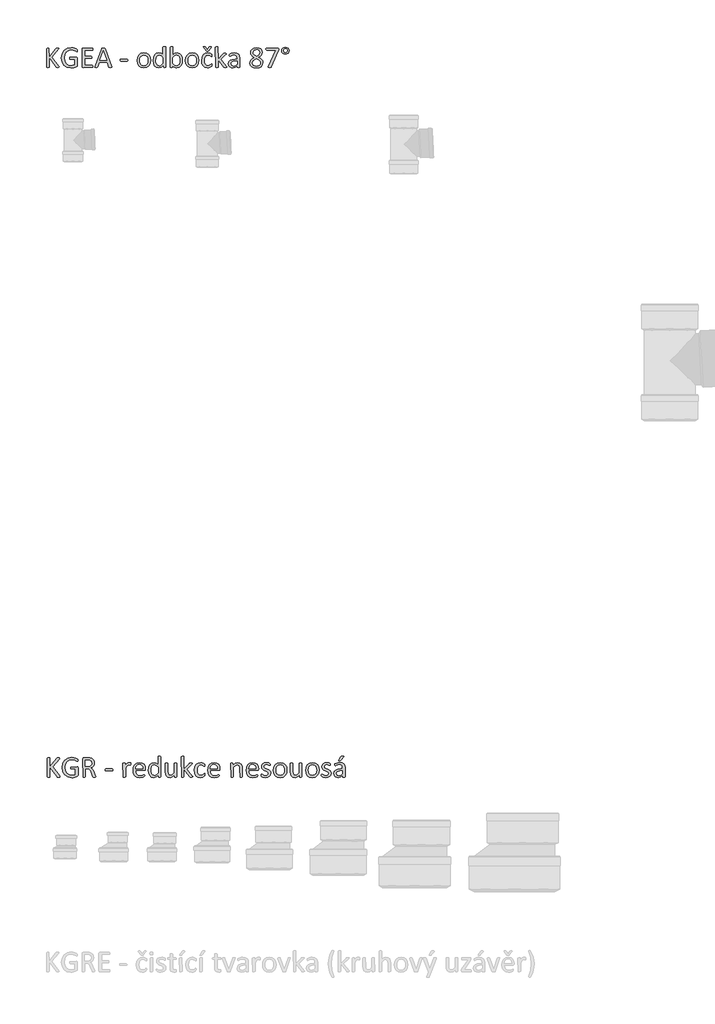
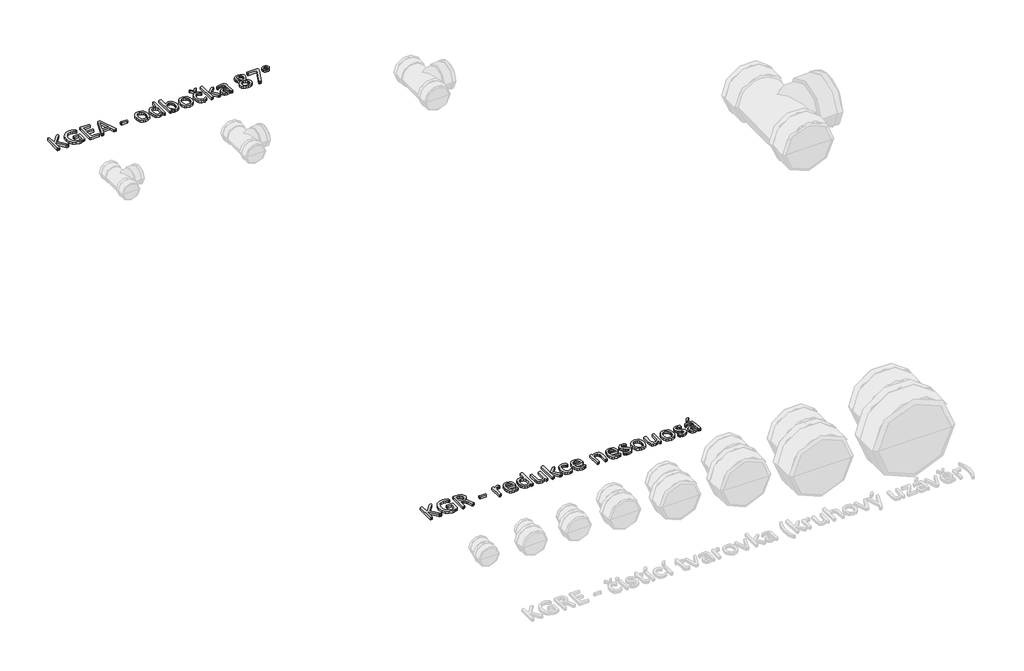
# One storey, part 8 of 11: 2 proxies.
"""IFC4 building model written with IfcOpenShell, lengths in millimetres."""

from ifc_helpers import new_model, si_unit, origin, origin_with_axes, place, context, project, spatial, polyline, outline, extrude, element, save

model = new_model("IFC4")

# Units and contexts
model_context = context("Model", 3, world=origin())
ifc_project = project(units=[si_unit("LENGTHUNIT", "METRE", prefix="MILLI")], contexts=[model_context])

# Site, building, storey
site = spatial("IfcSite", under=ifc_project)
building = spatial("IfcBuilding", under=site)
storey = spatial("IfcBuildingStorey", under=building, Name="Podlaží 1", Elevation=0.0)

# Proxies
placement = place(None, origin())
element("IfcBuildingElementProxy", 1, Name="120mm Arial", ObjectType="120mm Arial", at=placement, inside=storey, context=model_context, shape_type="SweptSolid", body=[
    extrude(outline(polyline([(-20472.3940185, 13408.9373299), (-20473.8234835, 13405.9155494), (-20476.3386182, 13405.3184311), (-20480.4098794, 13405.0832026), (-20485.6934717, 13405.35462), (-20488.7514412, 13406.3679117), (-20490.4342292, 13408.0506997), (-20534.5486061, 13467.6901526), (-20534.5486061, 13408.0506997), (-20536.2494886, 13405.8793604), (-20538.7465288, 13405.3184311), (-20542.6549395, 13405.0832026), (-20546.5271613, 13405.3184311), (-20549.0603905, 13405.8793604), (-20550.3812885, 13406.8021796), (-20550.3812885, 13522.5526591), (-20546.5271613, 13525.2849277), (-20542.6549395, 13525.5201562), (-20538.7465288, 13525.2849277), (-20536.2494886, 13524.7239984), (-20534.5486061, 13469.535791), (-20492.0989227, 13522.5526591), (-20490.7780246, 13523.9459352), (-20488.9866697, 13524.8325654), (-20486.399157, 13525.3392112), (-20482.4364628, 13525.5201562), (-20478.564241, 13525.2849277), (-20476.1938622, 13524.6878094), (-20475.2529486, 13520.1641859), (-20477.5509493, 13516.8347989), (-20517.3226476, 13469.535791), (-20474.4748853, 13412.9362131), (-20472.3940185, 13408.9373299)])), origin_with_axes(), (0.0, 0.0, 1.0), 15.0),
    extrude(outline(polyline([(-20360.8414616, 13509.7417572), (-20361.0224065, 13506.4666537), (-20361.5833359, 13504.096275), (-20362.5242496, 13502.7572824), (-20367.4278575, 13504.168653), (-20374.4123323, 13508.1494417), (-20384.8709499, 13512.1302304), (-20399.3103563, 13513.9396799), (-20417.1696221, 13510.2664975), (-20430.5595478, 13500.0973918), (-20438.9734876, 13484.6627882), (-20441.9047957, 13465.2654904), (-20438.7020702, 13444.5292), (-20429.8176736, 13429.2755414), (-20416.2648974, 13419.8664044), (-20399.0208444, 13416.6636789), (-20387.693691, 13417.984577), (-20377.0541284, 13421.9110823), (-20377.0541284, 13456.0372984), (-20404.0873028, 13456.0372984), (-20406.403398, 13457.7200863), (-20407.1633668, 13462.9493951), (-20406.9824219, 13466.1340261), (-20406.3853036, 13468.3053654), (-20366.4145658, 13469.9338699), (-20364.406077, 13469.57198), (-20362.578533, 13468.4682159), (-20361.293824, 13466.423538), (-20360.8414616, 13463.456041), (-20360.8414616, 13417.8579156), (-20361.6738083, 13413.6780874), (-20365.2022347, 13410.5839289), (-20372.1505205, 13407.6707153), (-20380.9444447, 13404.9927302), (-20390.1183533, 13403.3280367), (-20399.2741673, 13402.7671074), (-20424.1179079, 13407.145975), (-20442.610481, 13419.6130815), (-20454.1366738, 13438.9741903), (-20458.1174625, 13464.1798208), (-20453.8290674, 13490.4168374), (-20441.7238508, 13510.4474425), (-20422.9598603, 13523.2764389), (-20398.7313325, 13527.8362514), (-20385.8842416, 13526.6601093), (-20375.20849, 13523.9097462), (-20367.3554795, 13520.4717923), (-20362.9766119, 13517.4319172), (-20361.3119185, 13514.5729872), (-20360.8414616, 13509.7417572)])), origin_with_axes(), (0.0, 0.0, 1.0), 15.0),
    extrude(outline(polyline([(-20263.5654607, 13411.9952994), (-20263.7464056, 13408.9192354), (-20264.3978074, 13406.7298016), (-20265.4834771, 13405.463187), (-20324.7610401, 13405.0832026), (-20328.8142068, 13406.5307622), (-20330.7322232, 13411.5972206), (-20330.7322232, 13519.0061382), (-20328.7961123, 13524.0725966), (-20324.6886622, 13525.5201562), (-20266.7862807, 13525.5201562), (-20264.4159019, 13523.8735572), (-20263.8006891, 13521.6841234), (-20263.5654607, 13518.4271144), (-20263.8006891, 13515.3691449), (-20264.4159019, 13513.2159001), (-20314.5195564, 13511.6235846), (-20314.5195564, 13474.5660604), (-20273.6983774, 13474.5660604), (-20271.3099042, 13472.865178), (-20270.6946914, 13470.6757442), (-20270.5137465, 13467.3644517), (-20270.6946914, 13464.2702932), (-20271.3099042, 13462.1713319), (-20314.5195564, 13460.6694889), (-20314.5195564, 13418.9797742), (-20266.8224696, 13418.9797742), (-20264.3978074, 13417.3874587), (-20263.7464056, 13415.2342139), (-20263.5654607, 13411.9952994)])), origin_with_axes(), (0.0, 0.0, 1.0), 15.0),
    extrude(outline(polyline([(-20148.4844775, 13411.3438976), (-20147.7064142, 13408.0506997), (-20148.394005, 13406.1145888), (-20150.8548562, 13405.2641476), (-20155.4327632, 13405.0832026), (-20160.0468593, 13405.2279586), (-20162.6343719, 13405.6984154), (-20164.7333333, 13407.9783217), (-20175.011006, 13437.5085363), (-20224.915621, 13437.5085363), (-20234.7228369, 13408.3764006), (-20235.4828057, 13406.928841), (-20236.8217982, 13405.8793604), (-20239.3188384, 13405.2641476), (-20243.5529501, 13405.0832026), (-20247.9499122, 13405.3184311), (-20250.3564799, 13406.2050613), (-20251.0078817, 13408.1230777), (-20250.211724, 13411.4162756), (-20209.9695688, 13522.2269582), (-20209.0105606, 13523.8735572), (-20207.2373002, 13524.8687544), (-20204.2698031, 13525.3754002), (-20199.6918961, 13525.5201562), (-20194.7701937, 13525.3754002), (-20191.6036572, 13524.8687544), (-20189.7580188, 13523.8373682), (-20188.7266326, 13522.1545802), (-20148.4844775, 13411.3438976)]), holes=[polyline([(-20200.126164, 13509.3074893), (-20220.8986433, 13449.0890126), (-20179.1727396, 13449.0890126), (-20200.126164, 13509.3074893)])]), origin_with_axes(), (0.0, 0.0, 1.0), 15.0),
    extrude(outline(polyline([(-20048.1686015, 13450.2832492), (-20049.0190427, 13445.7234367), (-20051.4979884, 13444.4568221), (-20091.0887418, 13444.4568221), (-20093.6400655, 13445.7596256), (-20094.4905067, 13450.2832492), (-20093.6400655, 13454.7706838), (-20091.0887418, 13456.0372984), (-20051.4979884, 13456.0372984), (-20048.4038299, 13452.9974233), (-20048.1686015, 13450.2832492)])), origin_with_axes(), (0.0, 0.0, 1.0), 15.0),
    extrude(outline(polyline([(-19906.8867906, 13449.9937373), (-19909.5647758, 13431.0126129), (-19917.5806367, 13416.0665606), (-19930.9343735, 13406.2774393), (-19949.517419, 13402.7671074), (-19967.4309683, 13405.8612659), (-19980.1694922, 13414.8542295), (-19987.7691798, 13429.1850689), (-19990.26622, 13448.2928548), (-19987.6244238, 13467.2739793), (-19979.6628464, 13482.201937), (-19966.3633931, 13491.9367749), (-19947.7441586, 13495.4109178), (-19929.8125148, 13492.3167593), (-19917.0739909, 13483.3237956), (-19909.4381143, 13468.9929562), (-19906.8867906, 13449.9937373)]), holes=[polyline([(-19923.0994575, 13448.9080676), (-19924.3479776, 13461.4837411), (-19928.4554278, 13471.8699808), (-19936.1817768, 13478.9268335), (-19948.3593714, 13481.5143462), (-19959.9217532, 13479.1439675), (-19967.8833307, 13472.4490046), (-19972.5336157, 13462.2075209), (-19974.0535532, 13449.2699575), (-19972.8050331, 13436.6219061), (-19968.6613939, 13426.2718554), (-19960.8807614, 13419.2511916), (-19948.7212613, 13416.6636789), (-19937.1950685, 13419.0340577), (-19929.1792075, 13425.6747371), (-19924.5651115, 13435.8800318), (-19923.0994575, 13448.9080676)])]), origin_with_axes(), (0.0, 0.0, 1.0), 15.0),
    extrude(outline(polyline([(-19814.5686811, 13407.9783217), (-19817.9523516, 13405.2641476), (-19821.263644, 13405.0832026), (-19824.7015979, 13405.2641476), (-19826.9453152, 13405.7346044), (-19828.6100087, 13418.0388605), (-19842.0542179, 13406.8021796), (-19857.3078765, 13402.7671074), (-19872.7243856, 13406.3679117), (-19883.0563418, 13416.1027496), (-19888.8465799, 13430.542156), (-19890.6741238, 13448.0033429), (-19888.3942176, 13467.6358691), (-19881.6630657, 13482.5819214), (-19870.6254242, 13492.0815308), (-19855.3898601, 13495.4109178), (-19842.2351628, 13492.1720033), (-19830.4556471, 13482.6723938), (-19830.4556471, 13531.7808512), (-19828.7909536, 13533.9883794), (-19826.2939134, 13534.5493088), (-19822.4578806, 13534.7845372), (-19818.4409029, 13534.5493088), (-19815.9981462, 13533.9883794), (-19814.6772481, 13533.0655602), (-19814.5686811, 13407.9783217)]), holes=[polyline([(-19830.4556471, 13466.1702151), (-19842.0723124, 13477.587841), (-19853.7613556, 13481.5143462), (-19863.3514376, 13478.7639831), (-19869.7568885, 13471.5080909), (-19873.3395984, 13461.3027962), (-19874.461457, 13449.7404144), (-19873.5205433, 13437.5085363), (-19870.2454398, 13426.9051627), (-19864.0571228, 13419.4683255), (-19854.3765684, 13416.6636789), (-19848.6948972, 13417.4779312), (-19843.085604, 13420.1740108), (-19837.0963264, 13425.0595243), (-19830.4556471, 13432.4782669), (-19830.4556471, 13466.1702151)])]), origin_with_axes(), (0.0, 0.0, 1.0), 15.0),
    extrude(outline(polyline([(-19710.0186935, 13450.1746822), (-19712.3347888, 13430.4516835), (-19719.1564131, 13415.5056313), (-19730.2302436, 13406.0422108), (-19745.2667683, 13402.7671074), (-19752.504566, 13403.5632651), (-19759.0185839, 13406.1507778), (-19765.3878459, 13410.6563069), (-19772.1189977, 13417.2065138), (-19772.1189977, 13407.7611878), (-19776.009314, 13405.2641476), (-19779.3929844, 13405.0832026), (-19782.7223713, 13405.2641476), (-19784.9841831, 13405.7707934), (-19786.4498371, 13531.8170401), (-19782.3242924, 13534.6035923), (-19778.3796927, 13534.7845372), (-19774.362715, 13534.6035923), (-19771.9199583, 13534.0426629), (-19770.6352492, 13533.1017492), (-19770.2371703, 13481.5505352), (-19763.1984121, 13488.0102696), (-19756.5215437, 13492.2805703), (-19749.9894313, 13494.6690435), (-19743.095429, 13495.4109178), (-19727.8779593, 13491.7558299), (-19717.6002866, 13481.9667086), (-19711.828143, 13467.5815857), (-19710.0186935, 13450.1746822)]), holes=[polyline([(-19726.2313604, 13448.4014218), (-19727.1722741, 13460.7237724), (-19730.465472, 13471.3090515), (-19736.6718835, 13478.7096996), (-19746.3162489, 13481.5143462), (-19751.9617311, 13480.700094), (-19757.6253078, 13477.9859198), (-19763.6145854, 13473.1185009), (-19770.2371703, 13465.6273803), (-19770.2371703, 13432.00781), (-19758.548127, 13420.5901842), (-19746.9314617, 13416.6636789), (-19737.3956633, 13419.4321366), (-19730.9540234, 13426.7423122), (-19727.353219, 13436.947607), (-19726.2313604, 13448.4014218)])]), origin_with_axes(), (0.0, 0.0, 1.0), 15.0),
    extrude(outline(polyline([(-19608.1105021, 13449.9937373), (-19610.7884872, 13431.0126129), (-19618.8043482, 13416.0665606), (-19632.1580849, 13406.2774393), (-19650.7411305, 13402.7671074), (-19668.6546798, 13405.8612659), (-19681.3932037, 13414.8542295), (-19688.9928913, 13429.1850689), (-19691.4899315, 13448.2928548), (-19688.8481353, 13467.2739793), (-19680.8865578, 13482.201937), (-19667.5871046, 13491.9367749), (-19648.96787, 13495.4109178), (-19631.0362263, 13492.3167593), (-19618.2977023, 13483.3237956), (-19610.6618258, 13468.9929562), (-19608.1105021, 13449.9937373)]), holes=[polyline([(-19624.3231689, 13448.9080676), (-19625.571689, 13461.4837411), (-19629.6791392, 13471.8699808), (-19637.4054882, 13478.9268335), (-19649.5830829, 13481.5143462), (-19661.1454647, 13479.1439675), (-19669.1070421, 13472.4490046), (-19673.7573271, 13462.2075209), (-19675.2772646, 13449.2699575), (-19674.0287445, 13436.6219061), (-19669.8851054, 13426.2718554), (-19662.1044729, 13419.2511916), (-19649.9449727, 13416.6636789), (-19638.4187799, 13419.0340577), (-19630.402919, 13425.6747371), (-19625.788823, 13435.8800318), (-19624.3231689, 13448.9080676)])]), origin_with_axes(), (0.0, 0.0, 1.0), 15.0),
    extrude(outline(polyline([(-19527.047168, 13421.7301373), (-19527.1376405, 13419.1969081), (-19527.4633414, 13417.3874587), (-19529.4537357, 13413.7504654), (-19533.344052, 13410.222039), (-19539.5142745, 13406.4764787), (-19546.9511116, 13403.7984935), (-19555.274579, 13402.7671074), (-19570.9806, 13405.7707934), (-19582.4344148, 13414.5466231), (-19589.4731731, 13428.6965176), (-19591.8978353, 13448.0395319), (-19588.9303382, 13469.4815076), (-19580.8059103, 13484.1561424), (-19568.6645047, 13492.6424602), (-19553.5375075, 13495.4109178), (-19545.901631, 13494.5966655), (-19539.0981012, 13492.4615152), (-19533.5611859, 13489.4216402), (-19530.050854, 13486.4722376), (-19528.549011, 13484.5361267), (-19527.8614202, 13482.9980947), (-19527.4995304, 13481.0981728), (-19527.4090579, 13478.4382822), (-19528.2233101, 13473.6251467), (-19530.19561, 13472.2499652), (-19533.3259575, 13473.6975247), (-19537.7952976, 13476.8821557), (-19544.363599, 13480.0667867), (-19553.4289406, 13481.5143462), (-19562.9511682, 13479.4153849), (-19569.9492138, 13473.1185009), (-19574.2511798, 13462.8227337), (-19575.6851685, 13448.7271227), (-19574.2014199, 13434.7219842), (-19569.8225523, 13424.6614454), (-19562.7114161, 13418.6359788), (-19553.0670507, 13416.6636789), (-19544.0378981, 13418.4912229), (-19537.3067462, 13422.5082006), (-19532.5117053, 13426.4708948), (-19529.4718302, 13428.2441552), (-19527.1738295, 13424.6795399), (-19527.047168, 13421.7301373)])), origin_with_axes(), (0.0, 0.0, 1.0), 15.0),
    extrude(outline(polyline([(-19544.4178825, 13532.1065521), (-19543.2598348, 13533.3912611), (-19539.9666369, 13534.6578757), (-19537.0715178, 13534.7845372), (-19533.2897685, 13534.4769308), (-19531.4803191, 13533.5903006), (-19532.8374062, 13529.7904568), (-19547.7834584, 13509.3074893), (-19548.9596005, 13508.1494417), (-19550.551916, 13507.4799454), (-19552.8680113, 13507.1180555), (-19556.2154927, 13506.9913941), (-19559.3639347, 13507.1180555), (-19561.5895575, 13507.5161344), (-19563.1275895, 13508.2399142), (-19579.1593114, 13529.7904568), (-19580.5525874, 13532.0160796), (-19578.6526655, 13534.4769308), (-19574.8890107, 13534.7845372), (-19571.7767577, 13534.6578757), (-19569.8949303, 13534.2055134), (-19567.5788351, 13532.1065521), (-19555.9983588, 13515.9300742), (-19544.4178825, 13532.1065521)])), origin_with_axes(), (0.0, 0.0, 1.0), 15.0),
    extrude(outline(polyline([(-19436.7194529, 13408.0145107), (-19440.7907141, 13405.2641476), (-19444.7895973, 13405.0832026), (-19448.915142, 13405.2279586), (-19451.6655051, 13405.6803209), (-19453.4749545, 13406.5850457), (-19454.7415691, 13408.0145107), (-19489.9896438, 13453.5764471), (-19489.9896438, 13407.9059437), (-19494.1151885, 13405.2641476), (-19498.1321662, 13405.0832026), (-19502.076766, 13405.2641476), (-19504.5738062, 13405.8250769), (-19506.2023107, 13531.8170401), (-19502.076766, 13534.6035923), (-19498.1321662, 13534.7845372), (-19494.1151885, 13534.6035923), (-19491.6724318, 13534.0426629), (-19490.3877227, 13533.1017492), (-19489.9896438, 13455.6754085), (-19457.7814441, 13489.9101915), (-19456.1710341, 13491.4120346), (-19454.1444508, 13492.4072317), (-19451.3578987, 13492.9500666), (-19447.4675824, 13493.0948225), (-19443.4867937, 13492.9500666), (-19440.899281, 13492.4977042), (-19439.469816, 13491.683452), (-19439.6688554, 13488.1550256), (-19441.7859112, 13485.6037019), (-19473.776977, 13455.7839754), (-19438.9993591, 13412.3210003), (-19437.2441932, 13409.8058656), (-19436.7194529, 13408.0145107)])), origin_with_axes(), (0.0, 0.0, 1.0), 15.0),
    extrude(outline(polyline([(-19355.6561188, 13407.8697547), (-19356.4522765, 13406.1869668), (-19358.6236158, 13405.35462), (-19362.6767825, 13405.0832026), (-19366.7842327, 13405.35462), (-19369.0098555, 13406.1869668), (-19369.6974463, 13407.8697547), (-19369.6974463, 13416.1932221), (-19381.8931354, 13406.5669512), (-19396.1515968, 13402.7671074), (-19408.1120575, 13404.4860843), (-19417.2135881, 13409.4620702), (-19423.0581097, 13417.4598367), (-19425.1389766, 13428.2441552), (-19422.261952, 13440.5122223), (-19414.0108626, 13449.1613906), (-19400.8561653, 13454.3183214), (-19383.3406949, 13456.0372984), (-19371.8687856, 13456.0372984), (-19371.8687856, 13462.9493951), (-19372.8820773, 13471.9966423), (-19376.1390862, 13478.5468492), (-19381.9474189, 13482.4914489), (-19390.7232486, 13483.8304415), (-19400.7656928, 13482.3828819), (-19408.5463254, 13479.198251), (-19414.1375241, 13476.01362), (-19417.466911, 13474.5660604), (-19420.3258411, 13478.0944868), (-19420.506786, 13480.7543775), (-19420.1810851, 13484.5542212), (-19418.5887697, 13487.2141119), (-19414.246091, 13489.928286), (-19407.1530493, 13492.6062712), (-19398.3772196, 13494.61476), (-19388.7690432, 13495.4109178), (-19373.3887231, 13493.3662399), (-19363.1291449, 13487.3950568), (-19357.4293792, 13477.6421245), (-19355.6561188, 13464.0350648), (-19355.6561188, 13407.8697547)]), holes=[polyline([(-19371.8687856, 13444.4568221), (-19384.7520655, 13444.4568221), (-19395.500195, 13443.3892469), (-19403.0817881, 13440.2408049), (-19407.5149392, 13435.2467245), (-19408.9263097, 13428.5336671), (-19404.873143, 13418.1836164), (-19393.5098007, 13414.3475837), (-19382.5083482, 13417.4055532), (-19371.8687856, 13426.7604067), (-19371.8687856, 13444.4568221)])]), origin_with_axes(), (0.0, 0.0, 1.0), 15.0),
    extrude(outline(polyline([(-19212.0582126, 13435.7352758), (-19214.8447647, 13421.6939483), (-19222.8787202, 13411.3077086), (-19235.8524725, 13404.9203522), (-19253.5307934, 13402.7671074), (-19270.1596336, 13404.7394072), (-19282.6086456, 13410.5658344), (-19290.4254671, 13420.0473494), (-19293.1215467, 13432.9125347), (-19291.2397193, 13443.4254359), (-19285.8475601, 13452.2555491), (-19277.1983918, 13459.8190476), (-19265.5817265, 13466.532105), (-19275.3346589, 13472.6661385), (-19282.5000786, 13479.7048968), (-19286.9694187, 13487.8293247), (-19288.4893562, 13497.2203672), (-19286.2456389, 13509.1989224), (-19279.4421091, 13518.9156658), (-19267.8435383, 13525.4477782), (-19251.4318321, 13527.8362514), (-19235.8524725, 13525.6287231), (-19225.0138705, 13519.621351), (-19218.7169865, 13510.6464819), (-19216.6904032, 13499.5726514), (-19218.2103407, 13490.3806484), (-19222.6615863, 13482.0209921), (-19229.8812894, 13474.6384384), (-19239.6704108, 13468.1967985), (-19227.8728006, 13461.4656466), (-19219.2055379, 13453.9926205), (-19213.8857566, 13445.5424917), (-19212.0582126, 13435.7352758)]), holes=[polyline([(-19232.90307, 13498.6317377), (-19234.2058736, 13505.9600079), (-19238.0057173, 13511.5512066), (-19244.2121289, 13515.0615385), (-19252.6622577, 13516.2557751), (-19267.318798, 13511.5331121), (-19272.2766894, 13498.6317377), (-19271.0643583, 13491.683452), (-19267.3007035, 13485.5675129), (-19260.8590635, 13479.9220307), (-19251.612777, 13474.2041706), (-19237.7342999, 13485.2599065), (-19232.90307, 13498.6317377)]), polyline([(-19228.2708795, 13433.4553696), (-19229.8451005, 13441.453136), (-19234.6220469, 13448.1661934), (-19242.6017189, 13454.2278489), (-19253.7117383, 13460.307599), (-19263.9532221, 13454.3545104), (-19271.1910197, 13448.2023824), (-19275.4613204, 13441.5436085), (-19276.9088799, 13433.8172595), (-19275.3663243, 13425.5706937), (-19270.7386574, 13419.4321366), (-19263.0439737, 13415.6187219), (-19252.3003678, 13414.3475837), (-19241.8779391, 13415.6322928), (-19234.3506295, 13419.48642), (-19229.790817, 13425.5480756), (-19228.2708795, 13433.4553696)])]), origin_with_axes(), (0.0, 0.0, 1.0), 15.0),
    extrude(outline(polyline([(-19114.7822117, 13518.7166263), (-19114.9269677, 13515.7129403), (-19115.3069521, 13513.1254276), (-19115.9583538, 13510.7369544), (-19116.917362, 13508.2941977), (-19160.4165261, 13408.7021015), (-19161.5745738, 13406.8926521), (-19163.3478342, 13405.7888879), (-19166.0981973, 13405.2279586), (-19170.187553, 13405.0832026), (-19175.1454444, 13405.35462), (-19177.7148626, 13406.2412503), (-19178.4205479, 13407.7249988), (-19177.7510516, 13409.8239601), (-19132.0443592, 13511.6235846), (-19189.9829297, 13511.6235846), (-19192.6428203, 13513.469223), (-19193.5294506, 13518.6080594), (-19193.2942221, 13521.6660289), (-19192.5885369, 13523.8192737), (-19191.4666782, 13525.1039828), (-19119.6315362, 13525.5201562), (-19117.3516299, 13525.2487387), (-19115.8497869, 13524.1449746), (-19115.0536291, 13522.0279188), (-19114.7822117, 13518.7166263)])), origin_with_axes(), (0.0, 0.0, 1.0), 15.0),
    extrude(outline(polyline([(-19049.9315444, 13509.6693792), (-19051.6867104, 13501.4001954), (-19056.6265073, 13494.61476), (-19064.1176279, 13490.073042), (-19073.4543869, 13488.462632), (-19082.64639, 13489.9463805), (-19089.8118097, 13494.1262087), (-19094.5525672, 13500.5859431), (-19096.2534496, 13508.9455995), (-19094.4440002, 13517.4500117), (-19089.4680143, 13524.1449746), (-19082.0311772, 13528.5419367), (-19072.7306072, 13530.1523467), (-19063.5928876, 13528.6324092), (-19056.3731844, 13524.452581), (-19051.6324269, 13518.0290355), (-19049.9315444, 13509.6693792)]), holes=[polyline([(-19061.5120207, 13509.3436783), (-19062.3805565, 13513.9396799), (-19064.8052187, 13517.6128622), (-19068.51459, 13520.0194299), (-19073.201064, 13520.8879656), (-19077.7246876, 13520.0194299), (-19081.3797754, 13517.6128622), (-19083.8044376, 13513.9939633), (-19084.6729733, 13509.5246233), (-19083.8044376, 13504.7114878), (-19081.3254919, 13501.0021165), (-19077.5256481, 13498.5955488), (-19072.8029851, 13497.727013), (-19068.369834, 13498.6317377), (-19064.7690297, 13501.1287779), (-19062.3805565, 13504.8019603), (-19061.5120207, 13509.3436783)])]), origin_with_axes(), (0.0, 0.0, 1.0), 15.0),
])
element("IfcBuildingElementProxy", 2, Name="120mm Arial", ObjectType="120mm Arial", at=placement, inside=storey, context=model_context, shape_type="SweptSolid", body=[
    extrude(outline(polyline([(-20467.3940185, 9019.6646138), (-20468.8234835, 9016.6428332), (-20471.3386182, 9016.0457149), (-20475.4098794, 9015.8104865), (-20480.6934717, 9016.0819039), (-20483.7514412, 9017.0951956), (-20485.4342292, 9018.7779836), (-20529.5486061, 9078.4174365), (-20529.5486061, 9018.7779836), (-20531.2494886, 9016.6066442), (-20533.7465288, 9016.0457149), (-20537.6549395, 9015.8104865), (-20541.5271613, 9016.0457149), (-20544.0603905, 9016.6066442), (-20545.3812885, 9017.5294635), (-20545.3812885, 9133.279943), (-20541.5271613, 9136.0122116), (-20537.6549395, 9136.24744), (-20533.7465288, 9136.0122116), (-20531.2494886, 9135.4512823), (-20529.5486061, 9080.2630749), (-20487.0989227, 9133.279943), (-20485.7780246, 9134.673219), (-20483.9866697, 9135.5598492), (-20481.399157, 9136.0664951), (-20477.4364628, 9136.24744), (-20473.564241, 9136.0122116), (-20471.1938622, 9135.4150933), (-20470.2529486, 9130.8914697), (-20472.5509493, 9127.5620828), (-20512.3226476, 9080.2630749), (-20469.4748853, 9023.663497), (-20467.3940185, 9019.6646138)])), origin_with_axes(), (0.0, 0.0, 1.0), 15.0),
    extrude(outline(polyline([(-20355.8414616, 9120.4690411), (-20356.0224065, 9117.1939376), (-20356.5833359, 9114.8235589), (-20357.5242496, 9113.4845663), (-20362.4278575, 9114.8959368), (-20369.4123323, 9118.8767256), (-20379.8709499, 9122.8575143), (-20394.3103563, 9124.6669637), (-20412.1696221, 9120.9937814), (-20425.5595478, 9110.8246756), (-20433.9734876, 9095.3900721), (-20436.9047957, 9075.9927743), (-20433.7020702, 9055.2564839), (-20424.8176736, 9040.0028253), (-20411.2648974, 9030.5936883), (-20394.0208444, 9027.3909628), (-20382.693691, 9028.7118609), (-20372.0541284, 9032.6383661), (-20372.0541284, 9066.7645822), (-20399.0873028, 9066.7645822), (-20401.403398, 9068.4473702), (-20402.1633668, 9073.676679), (-20401.9824219, 9076.86131), (-20401.3853036, 9079.0326493), (-20361.4145658, 9080.6611538), (-20359.406077, 9080.2992639), (-20357.578533, 9079.1954997), (-20356.293824, 9077.1508219), (-20355.8414616, 9074.1833249), (-20355.8414616, 9028.5851994), (-20356.6738083, 9024.4053713), (-20360.2022347, 9021.3112127), (-20367.1505205, 9018.3979992), (-20375.9444447, 9015.720014), (-20385.1183533, 9014.0553206), (-20394.2741673, 9013.4943912), (-20419.1179079, 9017.8732588), (-20437.610481, 9030.3403654), (-20449.1366738, 9049.7014742), (-20453.1174625, 9074.9071046), (-20448.8290674, 9101.1441212), (-20436.7238508, 9121.1747263), (-20417.9598603, 9134.0037227), (-20393.7313325, 9138.5635353), (-20380.8842416, 9137.3873932), (-20370.20849, 9134.63703), (-20362.3554795, 9131.1990761), (-20357.9766119, 9128.1592011), (-20356.3119185, 9125.300271), (-20355.8414616, 9120.4690411)])), origin_with_axes(), (0.0, 0.0, 1.0), 15.0),
    extrude(outline(polyline([(-20246.2250156, 9018.7417946), (-20250.2962768, 9015.9914314), (-20254.7656169, 9015.8104865), (-20258.6921221, 9015.9914314), (-20261.1529734, 9016.5885498), (-20262.5824384, 9017.7285029), (-20263.4509741, 9019.5741413), (-20274.4886156, 9047.4396624), (-20278.4874988, 9056.1612086), (-20283.3368233, 9063.0190219), (-20289.9413137, 9067.488362), (-20299.0971277, 9069.0806775), (-20309.5195564, 9069.0806775), (-20309.5195564, 9018.7417946), (-20313.7174791, 9016.0457149), (-20317.6258898, 9015.8104865), (-20321.5343006, 9016.0457149), (-20324.0313408, 9016.6066442), (-20325.7322232, 9129.7696111), (-20323.8684903, 9134.817975), (-20319.8696071, 9136.24744), (-20294.7544491, 9136.24744), (-20287.3357065, 9136.0122116), (-20281.9797362, 9135.4874713), (-20269.8745196, 9131.6876275), (-20261.0444064, 9125.0650426), (-20255.7065306, 9115.8730395), (-20253.9332702, 9104.4735082), (-20255.5074912, 9093.6168116), (-20260.0673037, 9085.1304939), (-20267.2146289, 9078.7612319), (-20276.5513879, 9074.1833249), (-20271.1592287, 9070.9082214), (-20266.6536996, 9066.1674639), (-20262.7271944, 9059.8162964), (-20258.9997285, 9051.709963), (-20248.251599, 9025.4729464), (-20246.5869055, 9020.8407559), (-20246.2250156, 9018.7417946)]), holes=[polyline([(-20270.145937, 9102.7364367), (-20273.2400955, 9114.353102), (-20283.6444297, 9121.1928208), (-20288.783266, 9122.079451), (-20296.3105756, 9122.3508685), (-20309.5195564, 9122.3508685), (-20309.5195564, 9082.977249), (-20294.2116143, 9082.977249), (-20283.4996737, 9084.4609976), (-20275.9723641, 9088.6227312), (-20271.5573075, 9094.9015207), (-20270.145937, 9102.7364367)])]), origin_with_axes(), (0.0, 0.0, 1.0), 15.0),
    extrude(outline(polyline([(-20140.4446024, 9061.0105331), (-20141.2950437, 9056.4507205), (-20143.7739894, 9055.1841059), (-20183.3647427, 9055.1841059), (-20185.9160664, 9056.4869095), (-20186.7665076, 9061.0105331), (-20185.9160664, 9065.4979676), (-20183.3647427, 9066.7645822), (-20143.7739894, 9066.7645822), (-20140.6798308, 9063.7247072), (-20140.4446024, 9061.0105331)])), origin_with_axes(), (0.0, 0.0, 1.0), 15.0),
    extrude(outline(polyline([(-20029.2720299, 9096.8738206), (-20029.3625024, 9093.5806227), (-20029.7243923, 9091.4454723), (-20033.2709132, 9090.2331412), (-20035.6051029, 9091.065488), (-20038.5183165, 9091.8616457), (-20042.0105539, 9092.2416301), (-20046.4256105, 9091.2464329), (-20050.9673285, 9087.9894239), (-20055.9433144, 9081.9820519), (-20061.6973636, 9072.8081433), (-20061.6973636, 9018.6332276), (-20065.8229083, 9015.9914314), (-20069.839886, 9015.8104865), (-20073.7844857, 9015.9914314), (-20076.2815259, 9016.5342663), (-20077.9100304, 9100.9993653), (-20074.1825646, 9103.6773504), (-20070.5274768, 9103.8221064), (-20066.9447669, 9103.6773504), (-20064.7372386, 9103.1345156), (-20063.2534901, 9088.9846211), (-20056.9927951, 9097.5614114), (-20051.4377854, 9102.7907202), (-20046.26276, 9105.4144219), (-20041.0696402, 9106.1382016), (-20038.427844, 9106.0115402), (-20035.315591, 9105.5229888), (-20032.3842829, 9104.7087366), (-20030.5386445, 9103.8221064), (-20029.3082189, 9100.1308296), (-20029.2720299, 9096.8738206)])), origin_with_axes(), (0.0, 0.0, 1.0), 15.0),
    extrude(outline(polyline([(-19938.9443148, 9064.1227861), (-19940.7356697, 9059.0201387), (-19944.8431199, 9057.5002012), (-19999.1627916, 9057.5002012), (-19997.8057045, 9044.1102755), (-19993.3001754, 9033.9049807), (-19985.0852751, 9027.3547738), (-19972.708641, 9025.0748675), (-19962.4309683, 9026.1424427), (-19954.6141468, 9028.5490104), (-19949.203893, 9030.9555782), (-19946.0011675, 9032.0231533), (-19943.7031668, 9029.1280342), (-19943.5765053, 9026.4862381), (-19943.6669778, 9024.5501272), (-19948.1182234, 9019.1579679), (-19954.4693908, 9016.6609277), (-19963.516638, 9014.4714939), (-19974.4819014, 9013.4943912), (-19992.1602223, 9016.3895103), (-20004.9168407, 9025.0024896), (-20012.7336622, 9039.3514235), (-20015.3754584, 9059.3820286), (-20012.6070008, 9078.9240823), (-20004.6273288, 9093.6168116), (-19992.0335608, 9102.8992872), (-19975.4951931, 9106.1382016), (-19958.8482584, 9103.0078541), (-19947.5391996, 9094.5758198), (-19941.0251816, 9082.1449023), (-19938.9443148, 9066.9093382), (-19938.9443148, 9064.1227861)]), holes=[polyline([(-19955.1569816, 9069.0806775), (-19956.3286001, 9079.7066692), (-19960.3501015, 9087.77229), (-19967.1219659, 9092.8613665), (-19976.5446738, 9094.5577253), (-19986.1890392, 9092.458764), (-19993.1192305, 9086.8675653), (-19997.4438146, 9078.7431374), (-19999.1627916, 9069.0806775), (-19955.1569816, 9069.0806775)])]), origin_with_axes(), (0.0, 0.0, 1.0), 15.0),
    extrude(outline(polyline([(-19844.31011, 9018.7056056), (-19847.6937805, 9015.9914314), (-19851.0050729, 9015.8104865), (-19854.4430268, 9015.9914314), (-19856.6867441, 9016.4618883), (-19858.3514376, 9028.7661444), (-19871.7956468, 9017.5294635), (-19887.0493054, 9013.4943912), (-19902.4658145, 9017.0951956), (-19912.7977707, 9026.8300335), (-19918.5880088, 9041.2694399), (-19920.4155527, 9058.7306268), (-19918.1356465, 9078.363153), (-19911.4044946, 9093.3092052), (-19900.3668531, 9102.8088147), (-19885.131289, 9106.1382016), (-19871.9765917, 9102.8992872), (-19860.197076, 9093.3996777), (-19860.197076, 9142.508135), (-19858.5323825, 9144.7156633), (-19856.0353423, 9145.2765926), (-19852.1993095, 9145.5118211), (-19848.1823318, 9145.2765926), (-19845.7395751, 9144.7156633), (-19844.418677, 9143.7928441), (-19844.31011, 9018.7056056)]), holes=[polyline([(-19860.197076, 9076.897499), (-19871.8137413, 9088.3151248), (-19883.5027845, 9092.2416301), (-19893.0928665, 9089.491267), (-19899.4983174, 9082.2353748), (-19903.0810273, 9072.03008), (-19904.2028859, 9060.4676982), (-19903.2619722, 9048.2358201), (-19899.9868687, 9037.6324465), (-19893.7985517, 9030.1956094), (-19884.1179973, 9027.3909628), (-19878.4363261, 9028.205215), (-19872.8270329, 9030.9012947), (-19866.8377553, 9035.7868081), (-19860.197076, 9043.2055507), (-19860.197076, 9076.897499)])]), origin_with_axes(), (0.0, 0.0, 1.0), 15.0),
    extrude(outline(polyline([(-19744.392313, 9018.6332276), (-19748.2464402, 9015.9914314), (-19751.7024886, 9015.8104865), (-19755.3937654, 9015.9914314), (-19757.6374827, 9016.5342663), (-19759.0488533, 9029.5261131), (-19772.9273303, 9017.330424), (-19786.8058074, 9013.4943912), (-19800.630001, 9016.2809434), (-19809.7134371, 9023.8263474), (-19814.689423, 9034.9363669), (-19816.191266, 9050.3709705), (-19816.191266, 9100.9631763), (-19814.5265726, 9103.1164211), (-19811.9933434, 9103.6773504), (-19808.0849326, 9103.8221064), (-19804.1765219, 9103.6773504), (-19801.6975762, 9103.1345156), (-19800.3766781, 9102.2297909), (-19799.9785992, 9052.9041996), (-19798.9653075, 9041.3056289), (-19795.8530545, 9033.8687917), (-19790.5694622, 9029.0918453), (-19783.1145306, 9027.3909628), (-19772.1673616, 9031.462224), (-19760.6049798, 9043.4226847), (-19760.6049798, 9100.9993653), (-19758.9402863, 9103.1345156), (-19756.4432461, 9103.6773504), (-19752.4986464, 9103.8221064), (-19748.5902356, 9103.6773504), (-19746.1474789, 9103.1345156), (-19744.8265808, 9102.2297909), (-19744.392313, 9018.6332276)])), origin_with_axes(), (0.0, 0.0, 1.0), 15.0),
    extrude(outline(polyline([(-19647.116312, 9018.7417946), (-19651.1875732, 9015.9914314), (-19655.1864565, 9015.8104865), (-19659.3120011, 9015.9552425), (-19662.0623643, 9016.4076048), (-19663.8718137, 9017.3123295), (-19665.1384283, 9018.7417946), (-19700.386503, 9064.303731), (-19700.386503, 9018.6332276), (-19704.5120477, 9015.9914314), (-19708.5290254, 9015.8104865), (-19712.4736252, 9015.9914314), (-19714.9706654, 9016.5523608), (-19716.5991698, 9142.544324), (-19712.4736252, 9145.3308761), (-19708.5290254, 9145.5118211), (-19704.5120477, 9145.3308761), (-19702.069291, 9144.7699468), (-19700.7845819, 9143.8290331), (-19700.386503, 9066.4026923), (-19668.1783033, 9100.6374754), (-19666.5678933, 9102.1393184), (-19664.54131, 9103.1345156), (-19661.7547579, 9103.6773504), (-19657.8644416, 9103.8221064), (-19653.8836529, 9103.6773504), (-19651.2961402, 9103.2249881), (-19649.8666752, 9102.4107358), (-19650.0657146, 9098.8823095), (-19652.1827704, 9096.3309858), (-19684.1738362, 9066.5112593), (-19649.3962183, 9023.0482842), (-19647.6410524, 9020.5331495), (-19647.116312, 9018.7417946)])), origin_with_axes(), (0.0, 0.0, 1.0), 15.0),
    extrude(outline(polyline([(-19570.6851685, 9032.4574212), (-19570.7756409, 9029.924192), (-19571.1013418, 9028.1147426), (-19573.0917362, 9024.4777492), (-19576.9820524, 9020.9493229), (-19583.152275, 9017.2037626), (-19590.5891121, 9014.5257774), (-19598.9125794, 9013.4943912), (-19614.6186004, 9016.4980773), (-19626.0724153, 9025.273907), (-19633.1111735, 9039.4238015), (-19635.5358357, 9058.7668158), (-19632.5683387, 9080.2087914), (-19624.4439108, 9094.8834262), (-19612.3025052, 9103.369744), (-19597.175508, 9106.1382016), (-19589.5396314, 9105.3239494), (-19582.7361016, 9103.1887991), (-19577.1991864, 9100.1489241), (-19573.6888545, 9097.1995215), (-19572.1870115, 9095.2634106), (-19571.4994207, 9093.7253786), (-19571.1375308, 9091.8254567), (-19571.0470583, 9089.1655661), (-19571.8613106, 9084.3524306), (-19573.8336105, 9082.977249), (-19576.963958, 9084.4248086), (-19581.433298, 9087.6094396), (-19588.0015994, 9090.7940705), (-19597.066941, 9092.2416301), (-19606.5891686, 9090.1426688), (-19613.5872143, 9083.8457848), (-19617.8891803, 9073.5500176), (-19619.3231689, 9059.4544066), (-19617.8394204, 9045.449268), (-19613.4605528, 9035.3887292), (-19606.3494166, 9029.3632627), (-19596.7050511, 9027.3909628), (-19587.6758985, 9029.2185067), (-19580.9447467, 9033.2354844), (-19576.1497057, 9037.1981787), (-19573.1098307, 9038.9714391), (-19570.8118299, 9035.4068237), (-19570.6851685, 9032.4574212)])), origin_with_axes(), (0.0, 0.0, 1.0), 15.0),
    extrude(outline(polyline([(-19478.0413581, 9064.1227861), (-19479.832713, 9059.0201387), (-19483.9401632, 9057.5002012), (-19538.2598348, 9057.5002012), (-19536.9027478, 9044.1102755), (-19532.3972187, 9033.9049807), (-19524.1823183, 9027.3547738), (-19511.8056843, 9025.0748675), (-19501.5280116, 9026.1424427), (-19493.7111901, 9028.5490104), (-19488.3009363, 9030.9555782), (-19485.0982108, 9032.0231533), (-19482.80021, 9029.1280342), (-19482.6735486, 9026.4862381), (-19482.7640211, 9024.5501272), (-19487.2152666, 9019.1579679), (-19493.5664341, 9016.6609277), (-19502.6136812, 9014.4714939), (-19513.5789447, 9013.4943912), (-19531.2572656, 9016.3895103), (-19544.013884, 9025.0024896), (-19551.8307055, 9039.3514235), (-19554.4725016, 9059.3820286), (-19551.704044, 9078.9240823), (-19543.7243721, 9093.6168116), (-19531.1306041, 9102.8992872), (-19514.5922364, 9106.1382016), (-19497.9453017, 9103.0078541), (-19486.6362428, 9094.5758198), (-19480.1222249, 9082.1449023), (-19478.0413581, 9066.9093382), (-19478.0413581, 9064.1227861)]), holes=[polyline([(-19494.2540249, 9069.0806775), (-19495.4256434, 9079.7066692), (-19499.4471447, 9087.77229), (-19506.2190092, 9092.8613665), (-19515.641717, 9094.5577253), (-19525.2860825, 9092.458764), (-19532.2162738, 9086.8675653), (-19536.5408579, 9078.7431374), (-19538.2598348, 9069.0806775), (-19494.2540249, 9069.0806775)])]), origin_with_axes(), (0.0, 0.0, 1.0), 15.0),
    extrude(outline(polyline([(-19339.0756425, 9018.6694166), (-19343.2011871, 9015.9914314), (-19347.1457869, 9015.8104865), (-19351.1627646, 9015.9914314), (-19353.6055213, 9016.5342663), (-19355.2883093, 9067.0179051), (-19356.3558844, 9078.3812475), (-19359.450043, 9085.8180846), (-19364.7155408, 9090.5950311), (-19372.1885669, 9092.2416301), (-19383.1719249, 9088.2065579), (-19394.6619287, 9076.3546642), (-19394.6619287, 9018.6694166), (-19398.7874734, 9015.9914314), (-19402.8044511, 9015.8104865), (-19406.7490508, 9015.9914314), (-19409.246091, 9016.5342663), (-19410.8745955, 9100.9993653), (-19407.1471297, 9103.6773504), (-19403.4920419, 9103.8221064), (-19399.909332, 9103.6773504), (-19397.7018037, 9103.1345156), (-19396.2180552, 9090.1064798), (-19382.3757671, 9102.2840744), (-19368.4611011, 9106.1382016), (-19354.6369075, 9103.3154605), (-19345.5534714, 9095.7700565), (-19340.5774855, 9084.7143205), (-19339.0756425, 9069.4787564), (-19339.0756425, 9018.6694166)])), origin_with_axes(), (0.0, 0.0, 1.0), 15.0),
    extrude(outline(polyline([(-19239.4835463, 9064.1227861), (-19241.2749012, 9059.0201387), (-19245.3823514, 9057.5002012), (-19299.702023, 9057.5002012), (-19298.344936, 9044.1102755), (-19293.8394069, 9033.9049807), (-19285.6245065, 9027.3547738), (-19273.2478725, 9025.0748675), (-19262.9701998, 9026.1424427), (-19255.1533783, 9028.5490104), (-19249.7431245, 9030.9555782), (-19246.540399, 9032.0231533), (-19244.2423983, 9029.1280342), (-19244.1157368, 9026.4862381), (-19244.2062093, 9024.5501272), (-19248.6574548, 9019.1579679), (-19255.0086223, 9016.6609277), (-19264.0558694, 9014.4714939), (-19275.0211329, 9013.4943912), (-19292.6994538, 9016.3895103), (-19305.4560722, 9025.0024896), (-19313.2728937, 9039.3514235), (-19315.9146899, 9059.3820286), (-19313.1462322, 9078.9240823), (-19305.1665603, 9093.6168116), (-19292.5727923, 9102.8992872), (-19276.0344246, 9106.1382016), (-19259.3874899, 9103.0078541), (-19248.078431, 9094.5758198), (-19241.5644131, 9082.1449023), (-19239.4835463, 9066.9093382), (-19239.4835463, 9064.1227861)]), holes=[polyline([(-19255.6962131, 9069.0806775), (-19256.8678316, 9079.7066692), (-19260.8893329, 9087.77229), (-19267.6611974, 9092.8613665), (-19277.0839053, 9094.5577253), (-19286.7282707, 9092.458764), (-19293.658462, 9086.8675653), (-19297.9830461, 9078.7431374), (-19299.702023, 9069.0806775), (-19255.6962131, 9069.0806775)])]), origin_with_axes(), (0.0, 0.0, 1.0), 15.0),
    extrude(outline(polyline([(-19163.0524027, 9040.5637546), (-19165.4589704, 9029.0375618), (-19172.3167837, 9020.515055), (-19182.9020629, 9015.2676517), (-19196.41865, 9013.4943912), (-19205.0859128, 9014.326738), (-19212.4503719, 9016.4437938), (-19217.9691927, 9019.1217789), (-19221.2804851, 9021.6369136), (-19222.8004226, 9024.2968043), (-19223.2708795, 9028.5128214), (-19223.0899345, 9031.2450901), (-19222.6194777, 9033.036445), (-19217.6615863, 9032.891689), (-19212.7398838, 9029.7070581), (-19205.8096925, 9026.5224271), (-19196.635784, 9025.0748675), (-19189.5789312, 9025.9614978), (-19184.0962995, 9028.5851994), (-19180.5135896, 9033.000256), (-19179.2650695, 9039.333329), (-19181.0564244, 9045.3226066), (-19185.8152764, 9049.6471907), (-19192.4559558, 9052.9765776), (-19200.0556434, 9056.0164527), (-19207.7096144, 9059.617257), (-19214.4045773, 9064.5389594), (-19219.1634293, 9071.4691507), (-19220.9547842, 9081.1316106), (-19219.0367678, 9090.6312201), (-19213.2827187, 9098.5927976), (-19203.6926367, 9104.0754293), (-19190.230333, 9106.1382016), (-19183.4991812, 9105.5229888), (-19177.4194311, 9103.9668623), (-19172.7872406, 9101.940279), (-19169.8921215, 9100.0222626), (-19168.5893179, 9098.647081), (-19167.8293492, 9095.8062454), (-19167.6845932, 9093.3996777), (-19167.8293492, 9090.775976), (-19168.299806, 9088.9484321), (-19172.6786736, 9088.7132037), (-19176.8946908, 9091.0835825), (-19182.9744408, 9093.4539612), (-19190.9541128, 9094.5577253), (-19198.0471545, 9093.6349061), (-19203.0774239, 9091.0112045), (-19206.044921, 9086.9942268), (-19207.0582126, 9081.9639574), (-19205.1401963, 9075.8299238), (-19200.1280214, 9071.4691507), (-19193.0892631, 9068.1035748), (-19185.0553077, 9065.0275108), (-19176.9670688, 9061.4628954), (-19169.8921215, 9056.6859489), (-19164.9342301, 9049.9367026), (-19163.0524027, 9040.5637546)])), origin_with_axes(), (0.0, 0.0, 1.0), 15.0),
    extrude(outline(polyline([(-19063.4603065, 9060.7210212), (-19066.1382917, 9041.7398967), (-19074.1541526, 9026.7938445), (-19087.5078893, 9017.0047231), (-19106.0909349, 9013.4943912), (-19124.0044842, 9016.5885498), (-19136.7430081, 9025.5815134), (-19144.3426957, 9039.9123528), (-19146.8397359, 9059.0201387), (-19144.1979397, 9078.0012631), (-19136.2363623, 9092.9292209), (-19122.936909, 9102.6640588), (-19104.3176745, 9106.1382016), (-19086.3860307, 9103.0440431), (-19073.6475068, 9094.0510795), (-19066.0116302, 9079.7202401), (-19063.4603065, 9060.7210212)]), holes=[polyline([(-19079.6729733, 9059.6353515), (-19080.9214934, 9072.211025), (-19085.0289436, 9082.5972647), (-19092.7552927, 9089.6541174), (-19104.9328873, 9092.2416301), (-19116.4952691, 9089.8712513), (-19124.4568465, 9083.1762885), (-19129.1071315, 9072.9348047), (-19130.6270691, 9059.9972414), (-19129.378549, 9047.3491899), (-19125.2349098, 9036.9991392), (-19117.4542773, 9029.9784755), (-19105.2947772, 9027.3909628), (-19093.7685843, 9029.7613415), (-19085.7527234, 9036.4020209), (-19081.1386274, 9046.6073157), (-19079.6729733, 9059.6353515)])]), origin_with_axes(), (0.0, 0.0, 1.0), 15.0),
    extrude(outline(polyline([(-18970.8164961, 9018.6332276), (-18974.6706234, 9015.9914314), (-18978.1266718, 9015.8104865), (-18981.8179486, 9015.9914314), (-18984.0616659, 9016.5342663), (-18985.4730364, 9029.5261131), (-18999.3515135, 9017.330424), (-19013.2299906, 9013.4943912), (-19027.0541842, 9016.2809434), (-19036.1376202, 9023.8263474), (-19041.1136062, 9034.9363669), (-19042.6154492, 9050.3709705), (-19042.6154492, 9100.9631763), (-19040.9507557, 9103.1164211), (-19038.4175265, 9103.6773504), (-19034.5091158, 9103.8221064), (-19030.600705, 9103.6773504), (-19028.1217593, 9103.1345156), (-19026.8008612, 9102.2297909), (-19026.4027824, 9052.9041996), (-19025.3894907, 9041.3056289), (-19022.2772377, 9033.8687917), (-19016.9936454, 9029.0918453), (-19009.5387137, 9027.3909628), (-18998.5915447, 9031.462224), (-18987.0291629, 9043.4226847), (-18987.0291629, 9100.9993653), (-18985.3644695, 9103.1345156), (-18982.8674293, 9103.6773504), (-18978.9228295, 9103.8221064), (-18975.0144188, 9103.6773504), (-18972.5716621, 9103.1345156), (-18971.250764, 9102.2297909), (-18970.8164961, 9018.6332276)])), origin_with_axes(), (0.0, 0.0, 1.0), 15.0),
    extrude(outline(polyline([(-18864.2761142, 9060.7210212), (-18866.9540993, 9041.7398967), (-18874.9699602, 9026.7938445), (-18888.323697, 9017.0047231), (-18906.9067425, 9013.4943912), (-18924.8202918, 9016.5885498), (-18937.5588157, 9025.5815134), (-18945.1585033, 9039.9123528), (-18947.6555435, 9059.0201387), (-18945.0137474, 9078.0012631), (-18937.0521699, 9092.9292209), (-18923.7527167, 9102.6640588), (-18905.1334821, 9106.1382016), (-18887.2018383, 9103.0440431), (-18874.4633144, 9094.0510795), (-18866.8274378, 9079.7202401), (-18864.2761142, 9060.7210212)]), holes=[polyline([(-18880.488781, 9059.6353515), (-18881.7373011, 9072.211025), (-18885.8447513, 9082.5972647), (-18893.5711003, 9089.6541174), (-18905.7486949, 9092.2416301), (-18917.3110767, 9089.8712513), (-18925.2726542, 9083.1762885), (-18929.9229392, 9072.9348047), (-18931.4428767, 9059.9972414), (-18930.1943566, 9047.3491899), (-18926.0507174, 9036.9991392), (-18918.2700849, 9029.9784755), (-18906.1105848, 9027.3909628), (-18894.584392, 9029.7613415), (-18886.568531, 9036.4020209), (-18881.954435, 9046.6073157), (-18880.488781, 9059.6353515)])]), origin_with_axes(), (0.0, 0.0, 1.0), 15.0),
    extrude(outline(polyline([(-18790.1610658, 9040.5637546), (-18792.5676336, 9029.0375618), (-18799.4254469, 9020.515055), (-18810.010726, 9015.2676517), (-18823.5273132, 9013.4943912), (-18832.1945759, 9014.326738), (-18839.5590351, 9016.4437938), (-18845.0778558, 9019.1217789), (-18848.3891482, 9021.6369136), (-18849.9090857, 9024.2968043), (-18850.3795426, 9028.5128214), (-18850.1985977, 9031.2450901), (-18849.7281408, 9033.036445), (-18844.7702494, 9032.891689), (-18839.848547, 9029.7070581), (-18832.9183557, 9026.5224271), (-18823.7444471, 9025.0748675), (-18816.6875944, 9025.9614978), (-18811.2049626, 9028.5851994), (-18807.6222528, 9033.000256), (-18806.3737327, 9039.333329), (-18808.1650876, 9045.3226066), (-18812.9239396, 9049.6471907), (-18819.5646189, 9052.9765776), (-18827.1643065, 9056.0164527), (-18834.8182776, 9059.617257), (-18841.5132404, 9064.5389594), (-18846.2720924, 9071.4691507), (-18848.0634473, 9081.1316106), (-18846.145431, 9090.6312201), (-18840.3913818, 9098.5927976), (-18830.8012999, 9104.0754293), (-18817.3389962, 9106.1382016), (-18810.6078443, 9105.5229888), (-18804.5280942, 9103.9668623), (-18799.8959037, 9101.940279), (-18797.0007847, 9100.0222626), (-18795.6979811, 9098.647081), (-18794.9380123, 9095.8062454), (-18794.7932564, 9093.3996777), (-18794.9380123, 9090.775976), (-18795.4084692, 9088.9484321), (-18799.7873368, 9088.7132037), (-18804.0033539, 9091.0835825), (-18810.083104, 9093.4539612), (-18818.0627759, 9094.5577253), (-18825.1558177, 9093.6349061), (-18830.1860871, 9091.0112045), (-18833.1535841, 9086.9942268), (-18834.1668758, 9081.9639574), (-18832.2488594, 9075.8299238), (-18827.2366845, 9071.4691507), (-18820.1979262, 9068.1035748), (-18812.1639708, 9065.0275108), (-18804.0757319, 9061.4628954), (-18797.0007847, 9056.6859489), (-18792.0428932, 9049.9367026), (-18790.1610658, 9040.5637546)])), origin_with_axes(), (0.0, 0.0, 1.0), 15.0),
    extrude(outline(polyline([(-18729.9787781, 9142.2186231), (-18728.6397855, 9143.8109386), (-18726.7760526, 9144.7880413), (-18724.043784, 9145.3308761), (-18720.1353732, 9145.5118211), (-18715.7926946, 9145.2042147), (-18713.4765993, 9144.3175844), (-18713.7299223, 9141.3862764), (-18731.0282587, 9120.577608), (-18732.4215348, 9119.148143), (-18733.8509998, 9118.2977018), (-18735.9499612, 9117.8453394), (-18739.1707811, 9117.7186779), (-18742.5001681, 9117.9900954), (-18744.2372395, 9118.7138751), (-18743.8391606, 9121.5547107), (-18729.9787781, 9142.2186231)])), origin_with_axes(), (0.0, 0.0, 1.0), 15.0),
    extrude(outline(polyline([(-18704.4655412, 9018.5970386), (-18705.261699, 9016.9142506), (-18707.4330383, 9016.0819039), (-18711.486205, 9015.8104865), (-18715.5936552, 9016.0819039), (-18717.819278, 9016.9142506), (-18718.5068687, 9018.5970386), (-18718.5068687, 9026.920506), (-18730.7025578, 9017.294235), (-18744.9610193, 9013.4943912), (-18756.92148, 9015.2133682), (-18766.0230106, 9020.1893541), (-18771.8675322, 9028.1871205), (-18773.948399, 9038.9714391), (-18771.0713744, 9051.2395062), (-18762.8202851, 9059.8886744), (-18749.6655878, 9065.0456053), (-18732.1501174, 9066.7645822), (-18720.678208, 9066.7645822), (-18720.678208, 9073.676679), (-18721.6914997, 9082.7239261), (-18724.9485087, 9089.274133), (-18730.7568413, 9093.2187328), (-18739.532671, 9094.5577253), (-18749.5751153, 9093.1101658), (-18757.3557478, 9089.9255348), (-18762.9469465, 9086.7409038), (-18766.2763335, 9085.2933443), (-18769.1352636, 9088.8217707), (-18769.3162085, 9091.4816613), (-18768.9905076, 9095.2815051), (-18767.3981921, 9097.9413958), (-18763.0555135, 9100.6555699), (-18755.9624718, 9103.333555), (-18747.1866421, 9105.3420439), (-18737.5784656, 9106.1382016), (-18722.1981456, 9104.0935238), (-18711.9385673, 9098.1223407), (-18706.2388017, 9088.3694083), (-18704.4655412, 9074.7623487), (-18704.4655412, 9018.5970386)]), holes=[polyline([(-18720.678208, 9055.1841059), (-18733.5614879, 9055.1841059), (-18744.3096175, 9054.1165308), (-18751.8912106, 9050.9680888), (-18756.3243616, 9045.9740084), (-18757.7357322, 9039.260951), (-18753.6825655, 9028.9109003), (-18742.3192231, 9025.0748675), (-18731.3177706, 9028.1328371), (-18720.678208, 9037.4876906), (-18720.678208, 9055.1841059)])]), origin_with_axes(), (0.0, 0.0, 1.0), 15.0),
])

save(model, "model.ifc")
